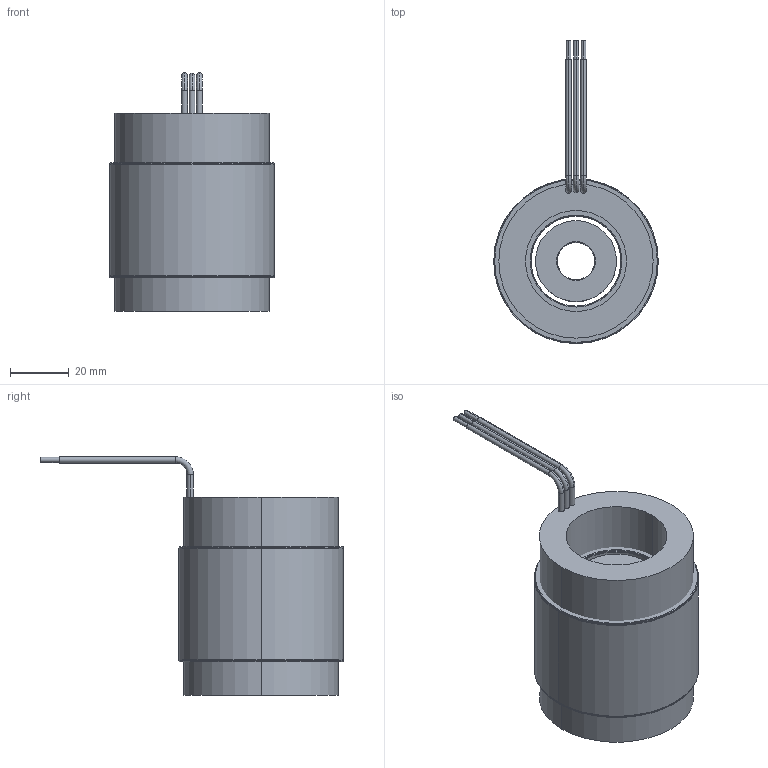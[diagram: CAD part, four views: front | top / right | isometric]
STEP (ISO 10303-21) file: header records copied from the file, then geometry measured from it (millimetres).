
FILE_DESCRIPTION (( 'STEP AP214' ), '1' );
FILE_NAME ('6100252-02.STEP', '2019-11-11T16:56:33', ( '' ), ( '' ), 'SwSTEP 2.0', 'SolidWorks 2016', '' );
FILE_SCHEMA (( 'AUTOMOTIVE_DESIGN' ));
Length unit declared in the file: millimetre
Products named in the file (9): 4400027-01; COMP4500513-XX(COIL)_COMP4500513-02(COIL); 4500513-XX_4500513-02; 4600087-00; 6100252-02; 4150141-XX_4150141-01; 4250337-XX_4250337-01; 4450150-XX_4450150-01
Assembly tree (10 placements, depth 4):
  6100252-02
    4500513-XX_4500513-02
      4450150-XX_4450150-01
        4450150-XX_4450150-01
        4400027-01  x2
        4600087-00  x2
      COMP4500513-XX(COIL)_COMP4500513-02(COIL)
    4250337-XX_4250337-01
      4150141-XX_4150141-01
Bounding box: 55.85 x 102.72 x 80.9 mm (x, y, z)
Volume: 167946.5 mm3; surface area: 55238.3 mm2
Topology: 7 solids, 7 shells, 84 faces, 174 edges, 110 vertices
Faces by surface type: cylinder 46, plane 20, torus 14, cone 4
Entity records: 2210 total; most frequent: DIRECTION 410, CARTESIAN_POINT 316, ORIENTED_EDGE 284, AXIS2_PLACEMENT_3D 184, EDGE_CURVE 142, CIRCLE 100, VERTEX_POINT 90, EDGE_LOOP 84
